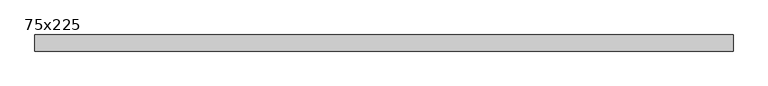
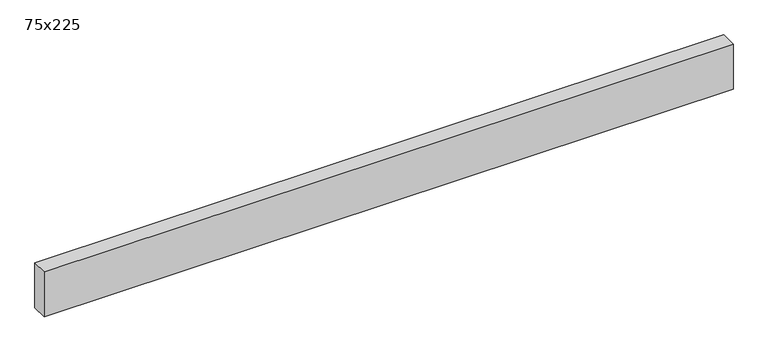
"""IFC4 building model written with IfcOpenShell, lengths in millimetres: beam geometry, Madrier : 75x225."""

from ifc_helpers import new_model, si_unit, frame, origin, place, context, project, spatial, polyline, outline, extrude, source, transform, mapped, element, save


def beam_75x225_47b7fd17(model_context):
    return source(origin(), model_context, "Body", "SweptSolid", [
        extrude(outline(polyline([(1621.2499994, 37.5), (1621.2499994, -37.5), (-1621.25, -37.5), (-1621.25, 37.5), (1621.2499994, 37.5)])), frame((0.0, 0.0, -112.5), z_axis=(0.0, 0.0, 1.0), x_axis=(1.0, 0.0, 0.0)), (0.0, 0.0, 1.0), 225.0),
    ])


if __name__ == "__main__":
    model = new_model("IFC4")
    model_context = context("Model", 3, world=origin())
    ifc_project = project(units=[si_unit("LENGTHUNIT", "METRE", prefix="MILLI")], contexts=[model_context])
    site = spatial("IfcSite", under=ifc_project)
    building = spatial("IfcBuilding", under=site)
    placement = place(None, origin())
    beam_75x225_shape = beam_75x225_47b7fd17(model_context)
    element("IfcBeam", 1, ObjectType="Madrier : 75x225", at=placement, inside=building, context=model_context, shape_type="MappedRepresentation", body=[
        mapped(beam_75x225_shape, transform((0.0, 0.0, 0.0), x_axis=(1.0, 0.0, 0.0), y_axis=(0.0, 1.0, 0.0), z_axis=(0.0, 0.0, 1.0))),
    ])
    save(model, "model.ifc")
